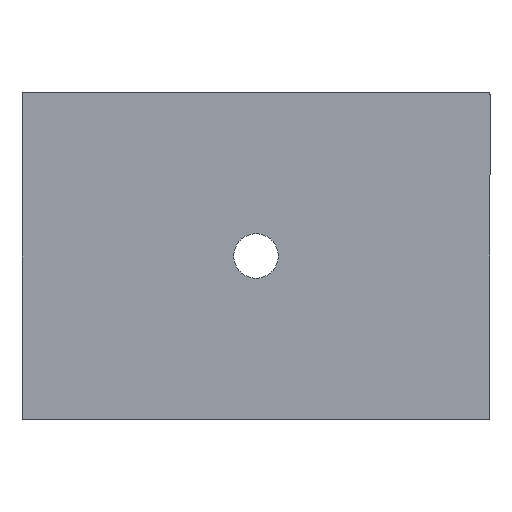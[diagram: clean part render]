
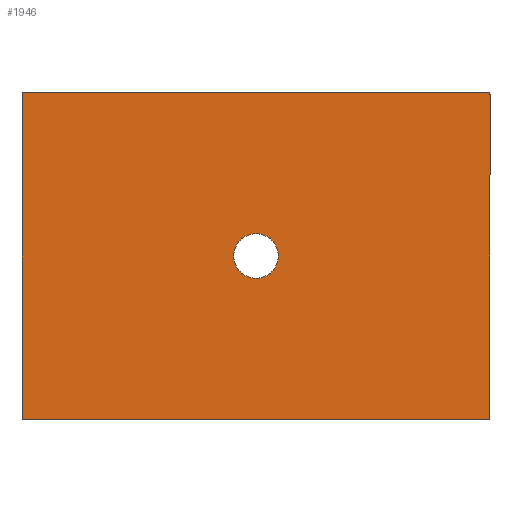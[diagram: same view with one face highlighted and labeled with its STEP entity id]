
A CAD part, front view. The second image highlights one B-rep face of the part: STEP entity #1946.
In plain terms, the highlighted planar face has unit normal (0, -1, 0).
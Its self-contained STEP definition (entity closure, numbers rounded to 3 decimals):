
#60 = EDGE_CURVE ( 'NONE', #1429, #1268, #2204, .T. ) ;
#64 = EDGE_CURVE ( 'NONE', #462, #2084, #338, .T. ) ;
#75 = VECTOR ( 'NONE', #2099, 1000. ) ;
#91 = CARTESIAN_POINT ( 'NONE',  ( -497.929, 0., -350. ) ) ;
#139 = DIRECTION ( 'NONE',  ( -1., 0., 0. ) ) ;
#167 = CARTESIAN_POINT ( 'NONE',  ( 497.929, 0., 350. ) ) ;
#224 = DIRECTION ( 'NONE',  ( 0., 0., 1. ) ) ;
#237 = VECTOR ( 'NONE', #139, 1000. ) ;
#238 = EDGE_CURVE ( 'NONE', #2406, #251, #1719, .T. ) ;
#251 = VERTEX_POINT ( 'NONE', #918 ) ;
#256 = FACE_OUTER_BOUND ( 'NONE', #999, .T. ) ;
#328 = CIRCLE ( 'NONE', #1770, 47.5 ) ;
#338 = LINE ( 'NONE', #1310, #742 ) ;
#366 = CARTESIAN_POINT ( 'NONE',  ( 500., 0., 347.929 ) ) ;
#421 = CARTESIAN_POINT ( 'NONE',  ( -495.001, 0., -350. ) ) ;
#462 = VERTEX_POINT ( 'NONE', #1252 ) ;
#472 = ORIENTED_EDGE ( 'NONE', *, *, #238, .F. ) ;
#504 = DIRECTION ( 'NONE',  ( 0., 0., -1. ) ) ;
#508 = DIRECTION ( 'NONE',  ( 0., -1., 0. ) ) ;
#544 = VERTEX_POINT ( 'NONE', #1650 ) ;
#549 = CARTESIAN_POINT ( 'NONE',  ( 495.001, 0., 350. ) ) ;
#572 =( BOUNDED_CURVE ( )  B_SPLINE_CURVE ( 3, ( #935, #366, #167, #549 ),
 .UNSPECIFIED., .F., .T. ) 
 B_SPLINE_CURVE_WITH_KNOTS ( ( 4, 4 ),
 ( 5.498, 7.068 ),
 .UNSPECIFIED. ) 
 CURVE ( )  GEOMETRIC_REPRESENTATION_ITEM ( )  RATIONAL_B_SPLINE_CURVE ( ( 1., 0.805, 0.805, 1. ) ) 
 REPRESENTATION_ITEM ( '' )  );
#631 = CARTESIAN_POINT ( 'NONE',  ( 497.929, 0., -350. ) ) ;
#656 =( BOUNDED_CURVE ( )  B_SPLINE_CURVE ( 3, ( #2266, #2051, #91, #1643 ),
 .UNSPECIFIED., .F., .F. ) 
 B_SPLINE_CURVE_WITH_KNOTS ( ( 4, 4 ),
 ( 5.498, 7.068 ),
 .UNSPECIFIED. ) 
 CURVE ( )  GEOMETRIC_REPRESENTATION_ITEM ( )  RATIONAL_B_SPLINE_CURVE ( ( 1., 0.805, 0.805, 1. ) ) 
 REPRESENTATION_ITEM ( '' )  );
#696 = CARTESIAN_POINT ( 'NONE',  ( -497.929, 0., 350. ) ) ;
#711 = CARTESIAN_POINT ( 'NONE',  ( -500., 0., -350. ) ) ;
#742 = VECTOR ( 'NONE', #504, 1000. ) ;
#786 = ORIENTED_EDGE ( 'NONE', *, *, #64, .F. ) ;
#863 = ORIENTED_EDGE ( 'NONE', *, *, #1608, .T. ) ;
#881 = CARTESIAN_POINT ( 'NONE',  ( 0., 0., 0. ) ) ;
#918 = CARTESIAN_POINT ( 'NONE',  ( -500., 0., 345.001 ) ) ;
#935 = CARTESIAN_POINT ( 'NONE',  ( 500., 0., 345.001 ) ) ;
#953 = EDGE_CURVE ( 'NONE', #462, #1456, #572, .T. ) ;
#986 =( BOUNDED_CURVE ( )  B_SPLINE_CURVE ( 3, ( #2376, #631, #1404, #1806 ),
 .UNSPECIFIED., .F., .T. ) 
 B_SPLINE_CURVE_WITH_KNOTS ( ( 4, 4 ),
 ( 5.498, 7.068 ),
 .UNSPECIFIED. ) 
 CURVE ( )  GEOMETRIC_REPRESENTATION_ITEM ( )  RATIONAL_B_SPLINE_CURVE ( ( 1., 0.805, 0.805, 1. ) ) 
 REPRESENTATION_ITEM ( '' )  );
#999 = EDGE_LOOP ( 'NONE', ( #1846, #1442, #786, #2216, #1270, #863, #472, #2202 ) ) ;
#1038 = CARTESIAN_POINT ( 'NONE',  ( -500., 0., 350. ) ) ;
#1093 = CARTESIAN_POINT ( 'NONE',  ( -500., 0., 347.929 ) ) ;
#1205 = CARTESIAN_POINT ( 'NONE',  ( 495.001, 0., -350. ) ) ;
#1227 = LINE ( 'NONE', #1038, #2185 ) ;
#1252 = CARTESIAN_POINT ( 'NONE',  ( 500., 0., 345.001 ) ) ;
#1258 = FACE_BOUND ( 'NONE', #2434, .T. ) ;
#1268 = VERTEX_POINT ( 'NONE', #421 ) ;
#1270 = ORIENTED_EDGE ( 'NONE', *, *, #1709, .F. ) ;
#1301 = EDGE_CURVE ( 'NONE', #1429, #2084, #986, .T. ) ;
#1310 = CARTESIAN_POINT ( 'NONE',  ( 500., 0., 350. ) ) ;
#1323 = AXIS2_PLACEMENT_3D ( 'NONE', #1471, #2262, #224 ) ;
#1404 = CARTESIAN_POINT ( 'NONE',  ( 500., 0., -347.929 ) ) ;
#1429 = VERTEX_POINT ( 'NONE', #1205 ) ;
#1442 = ORIENTED_EDGE ( 'NONE', *, *, #1301, .T. ) ;
#1456 = VERTEX_POINT ( 'NONE', #2549 ) ;
#1471 = CARTESIAN_POINT ( 'NONE',  ( 0., 0., 0. ) ) ;
#1510 = CARTESIAN_POINT ( 'NONE',  ( 500., 0., -350. ) ) ;
#1608 = EDGE_CURVE ( 'NONE', #544, #251, #2478, .T. ) ;
#1643 = CARTESIAN_POINT ( 'NONE',  ( -495.001, 0., -350. ) ) ;
#1650 = CARTESIAN_POINT ( 'NONE',  ( -495.001, 0., 350. ) ) ;
#1709 = EDGE_CURVE ( 'NONE', #544, #1456, #1227, .T. ) ;
#1719 = LINE ( 'NONE', #711, #75 ) ;
#1767 = VERTEX_POINT ( 'NONE', #1779 ) ;
#1770 = AXIS2_PLACEMENT_3D ( 'NONE', #881, #508, #2064 ) ;
#1779 = CARTESIAN_POINT ( 'NONE',  ( 0., 0., -47.5 ) ) ;
#1802 = DIRECTION ( 'NONE',  ( 1., 0., 0. ) ) ;
#1806 = CARTESIAN_POINT ( 'NONE',  ( 500., 0., -345.001 ) ) ;
#1846 = ORIENTED_EDGE ( 'NONE', *, *, #60, .F. ) ;
#1946 = ADVANCED_FACE ( 'NONE', ( #1258, #256 ), #2397, .F. ) ;
#2051 = CARTESIAN_POINT ( 'NONE',  ( -500., 0., -347.929 ) ) ;
#2064 = DIRECTION ( 'NONE',  ( 0., 0., -1. ) ) ;
#2084 = VERTEX_POINT ( 'NONE', #2163 ) ;
#2085 = CARTESIAN_POINT ( 'NONE',  ( -500., 0., 345.001 ) ) ;
#2099 = DIRECTION ( 'NONE',  ( 0., 0., 1. ) ) ;
#2163 = CARTESIAN_POINT ( 'NONE',  ( 500., 0., -345.001 ) ) ;
#2185 = VECTOR ( 'NONE', #1802, 1000. ) ;
#2202 = ORIENTED_EDGE ( 'NONE', *, *, #2340, .T. ) ;
#2204 = LINE ( 'NONE', #1510, #237 ) ;
#2216 = ORIENTED_EDGE ( 'NONE', *, *, #953, .T. ) ;
#2245 = ORIENTED_EDGE ( 'NONE', *, *, #2438, .F. ) ;
#2255 = CARTESIAN_POINT ( 'NONE',  ( -500., 0., -345.001 ) ) ;
#2262 = DIRECTION ( 'NONE',  ( 0., 1., 0. ) ) ;
#2266 = CARTESIAN_POINT ( 'NONE',  ( -500., 0., -345.001 ) ) ;
#2340 = EDGE_CURVE ( 'NONE', #2406, #1268, #656, .T. ) ;
#2376 = CARTESIAN_POINT ( 'NONE',  ( 495.001, 0., -350. ) ) ;
#2397 = PLANE ( 'NONE',  #1323 ) ;
#2406 = VERTEX_POINT ( 'NONE', #2255 ) ;
#2434 = EDGE_LOOP ( 'NONE', ( #2245 ) ) ;
#2438 = EDGE_CURVE ( 'NONE', #1767, #1767, #328, .T. ) ;
#2478 =( BOUNDED_CURVE ( )  B_SPLINE_CURVE ( 3, ( #2499, #696, #1093, #2085 ),
 .UNSPECIFIED., .F., .F. ) 
 B_SPLINE_CURVE_WITH_KNOTS ( ( 4, 4 ),
 ( 5.498, 7.068 ),
 .UNSPECIFIED. ) 
 CURVE ( )  GEOMETRIC_REPRESENTATION_ITEM ( )  RATIONAL_B_SPLINE_CURVE ( ( 1., 0.805, 0.805, 1. ) ) 
 REPRESENTATION_ITEM ( '' )  );
#2499 = CARTESIAN_POINT ( 'NONE',  ( -495.001, 0., 350. ) ) ;
#2549 = CARTESIAN_POINT ( 'NONE',  ( 495.001, 0., 350. ) ) ;
